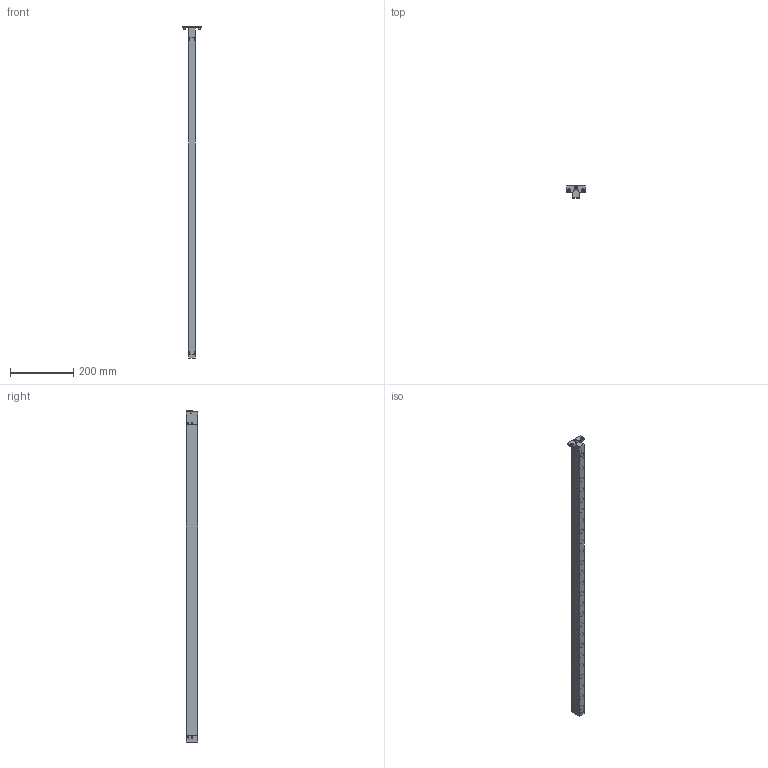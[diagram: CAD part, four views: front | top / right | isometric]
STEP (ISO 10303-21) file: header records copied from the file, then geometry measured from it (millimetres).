
FILE_DESCRIPTION(/* description */ (''),/* implementation_level */ '2;1');
FILE_NAME(/* name */ 'S:\EASCN Vault\Designs\Standard Part\DIE LIFTERS\EHB\EHB- 3D step\EHB22 - 3D step complete serie\EHB 22-25.stp',/* time_stamp */ '2019-11-21T14:49:26+08:00',/* author */ ('yue.yang'),/* organization */ (''),/* preprocessor_version */ 'ST-DEVELOPER v17',/* originating_system */ 'Autodesk Inventor 2019',/* authorisation */ '');
FILE_SCHEMA (('AUTOMOTIVE_DESIGN { 1 0 10303 214 3 1 1 }'));
Length unit declared in the file: millimetre
Products named in the file (1): EHB 22-25_Shrinkwrap_1
Bounding box: 58 x 37.8 x 1046 mm (x, y, z)
Volume: 673329 mm3; surface area: 262916 mm2
Topology: 87 solids, 87 shells, 836 faces, 2307 edges, 1671 vertices
Faces by surface type: plane 292, cylinder 265, cone 129, torus 125, sphere 25
Full cylindrical faces by diameter (mm): 3 x2, 4.134 x1, 5 x15, 5.5 x4, 6 x26, 6.647 x1, 8 x1, 10 x6, 12.2 x25, 16 x25, 16.4 x25, 17.05 x25, 19.05 x25, 19.2 x25
Entity records: 31417 total; most frequent: CARTESIAN_POINT 7850, DIRECTION 5142, ORIENTED_EDGE 4454, AXIS2_PLACEMENT_3D 2285, EDGE_CURVE 2227, VERTEX_POINT 1671, CIRCLE 1446, EDGE_LOOP 1076
